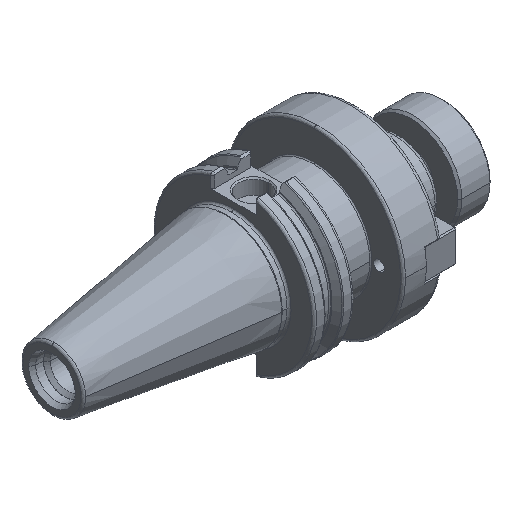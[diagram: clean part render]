
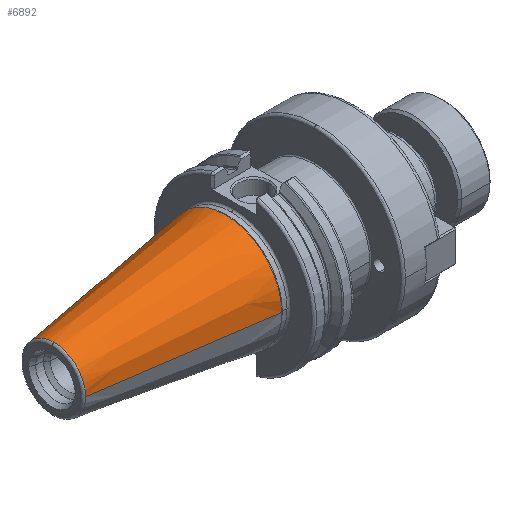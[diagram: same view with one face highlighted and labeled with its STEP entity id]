
A CAD part, isometric view. The second image highlights one B-rep face of the part: STEP entity #6892.
In plain terms, the highlighted conical face has half-angle 8.297 degrees and reference radius 22.225 mm.
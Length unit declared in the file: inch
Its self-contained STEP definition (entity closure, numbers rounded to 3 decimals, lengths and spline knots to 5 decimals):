
#1174 = CARTESIAN_POINT ( 'NONE',  ( 0., -0.875, 0. ) ) ;
#1278 = VERTEX_POINT ( 'NONE', #2902 ) ;
#1302 = LINE ( 'NONE', #11359, #5971 ) ;
#1390 = ORIENTED_EDGE ( 'NONE', *, *, #1798, .T. ) ;
#1724 = CARTESIAN_POINT ( 'NONE',  ( 0., 0., 0. ) ) ;
#1768 = CARTESIAN_POINT ( 'NONE',  ( 0., 0.875, 0. ) ) ;
#1798 = EDGE_CURVE ( 'NONE', #17047, #1278, #8885, .T. ) ;
#2184 = DIRECTION ( 'NONE',  ( 0., 1., 0. ) ) ;
#2453 = CARTESIAN_POINT ( 'NONE',  ( -2.65277, 0., 0. ) ) ;
#2595 = AXIS2_PLACEMENT_3D ( 'NONE', #1724, #7459, #6026 ) ;
#2838 = VERTEX_POINT ( 'NONE', #1768 ) ;
#2902 = CARTESIAN_POINT ( 'NONE',  ( -2.65277, 0., 0.48814 ) ) ;
#3280 = EDGE_CURVE ( 'NONE', #1278, #4442, #11020, .T. ) ;
#3786 = CIRCLE ( 'NONE', #2595, 0.875 ) ;
#4442 = VERTEX_POINT ( 'NONE', #13649 ) ;
#5850 = CONICAL_SURFACE ( 'NONE', #11247, 0.875, 0.145 ) ;
#5922 = EDGE_CURVE ( 'NONE', #17047, #2838, #1302, .T. ) ;
#5971 = VECTOR ( 'NONE', #17165, 39.37008 ) ;
#6026 = DIRECTION ( 'NONE',  ( 0., 1., 0. ) ) ;
#6167 = VERTEX_POINT ( 'NONE', #18528 ) ;
#6802 = LINE ( 'NONE', #1174, #17759 ) ;
#6892 = ADVANCED_FACE ( 'NONE', ( #10064 ), #5850, .T. ) ;
#6895 = EDGE_LOOP ( 'NONE', ( #1390, #13488, #13920, #13287, #12078 ) ) ;
#6898 = DIRECTION ( 'NONE',  ( 0.99, -0.144, 0. ) ) ;
#7459 = DIRECTION ( 'NONE',  ( -1., 0., 0. ) ) ;
#8741 = DIRECTION ( 'NONE',  ( 1., 0., 0. ) ) ;
#8885 = CIRCLE ( 'NONE', #14004, 0.48814 ) ;
#10064 = FACE_OUTER_BOUND ( 'NONE', #6895, .T. ) ;
#10297 = DIRECTION ( 'NONE',  ( 0., 1., 0. ) ) ;
#11020 = CIRCLE ( 'NONE', #18302, 0.48814 ) ;
#11247 = AXIS2_PLACEMENT_3D ( 'NONE', #15865, #12926, #18510 ) ;
#11359 = CARTESIAN_POINT ( 'NONE',  ( 0., 0.875, 0. ) ) ;
#11701 = EDGE_CURVE ( 'NONE', #6167, #2838, #3786, .T. ) ;
#12078 = ORIENTED_EDGE ( 'NONE', *, *, #5922, .F. ) ;
#12728 = CARTESIAN_POINT ( 'NONE',  ( -2.65277, 0.48814, 0. ) ) ;
#12926 = DIRECTION ( 'NONE',  ( 1., 0., 0. ) ) ;
#13287 = ORIENTED_EDGE ( 'NONE', *, *, #11701, .T. ) ;
#13488 = ORIENTED_EDGE ( 'NONE', *, *, #3280, .T. ) ;
#13649 = CARTESIAN_POINT ( 'NONE',  ( -2.65277, -0.48814, 0. ) ) ;
#13920 = ORIENTED_EDGE ( 'NONE', *, *, #14311, .T. ) ;
#14004 = AXIS2_PLACEMENT_3D ( 'NONE', #15272, #15064, #2184 ) ;
#14311 = EDGE_CURVE ( 'NONE', #4442, #6167, #6802, .T. ) ;
#15064 = DIRECTION ( 'NONE',  ( 1., 0., 0. ) ) ;
#15272 = CARTESIAN_POINT ( 'NONE',  ( -2.65277, 0., 0. ) ) ;
#15865 = CARTESIAN_POINT ( 'NONE',  ( 0., 0., 0. ) ) ;
#17047 = VERTEX_POINT ( 'NONE', #12728 ) ;
#17165 = DIRECTION ( 'NONE',  ( 0.99, 0.144, 0. ) ) ;
#17759 = VECTOR ( 'NONE', #6898, 39.37008 ) ;
#18302 = AXIS2_PLACEMENT_3D ( 'NONE', #2453, #8741, #10297 ) ;
#18510 = DIRECTION ( 'NONE',  ( 0., 1., 0. ) ) ;
#18528 = CARTESIAN_POINT ( 'NONE',  ( 0., -0.875, 0. ) ) ;
